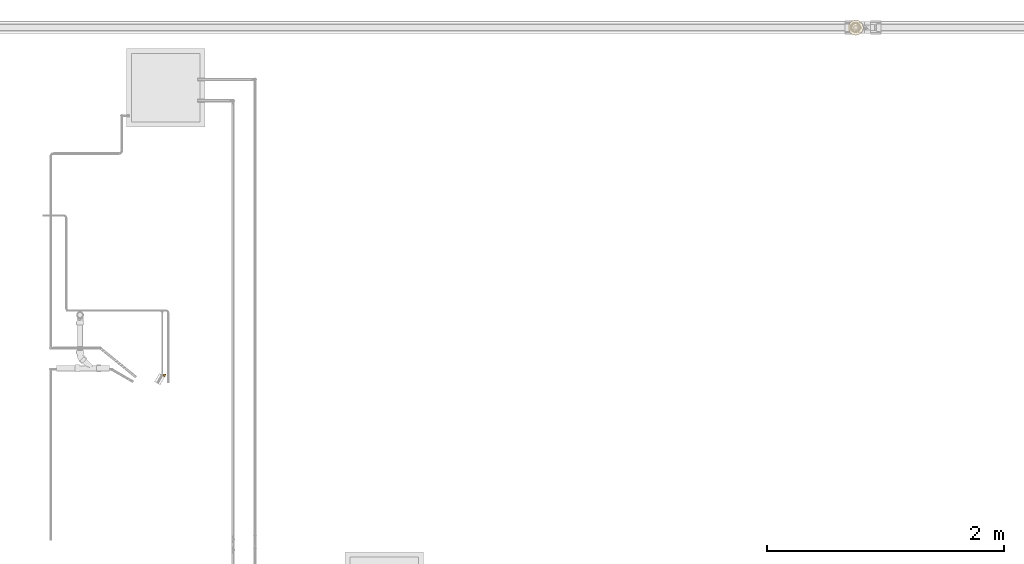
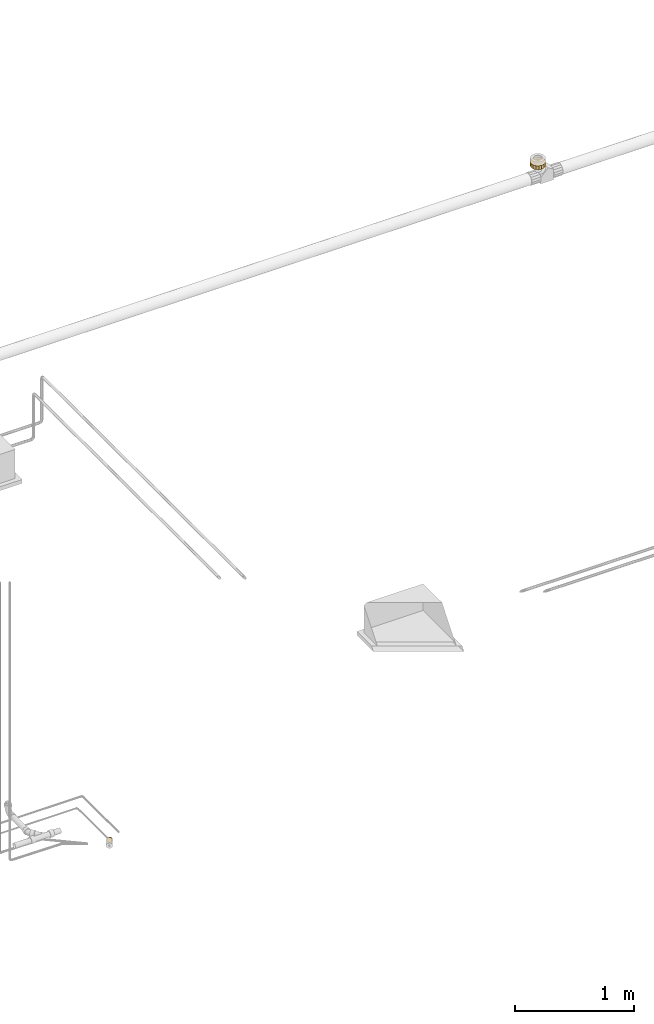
# One storey, part 3 of 35: 2 coverings.
"""IFC2X3 building model written with IfcOpenShell, lengths in millimetres."""

from ifc_helpers import new_model, entity, si_unit, converted_unit, derived_unit, direction, frame, origin_with_axes, place, context, subcontext, project, spatial, open_shell, surface_model, source, transform, mapped, element, save


model = new_model("IFC2X3")

# Units and contexts
model_context = context("Model", 3, precision=0.01, world=frame((0.0, 4.29681676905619e-09, 0.0)), true_north=direction((4.01073788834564e-13, 1.0)))
plan_context = context("Plan", 3, precision=0.01, world=frame((0.0, 4.29681676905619e-09, 0.0)), true_north=direction((4.01073788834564e-13, 1.0)))
body_context = subcontext(model_context, "Body", "Model", "MODEL_VIEW")
ifc_project = project(units=[converted_unit("PLANEANGLEUNIT", "DEGREE", entity("IfcPositiveLengthMeasure", 0.0174532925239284), si_unit("PLANEANGLEUNIT", "RADIAN"), dimensions=[0, 0, 0, 0, 0, 0, 0]), si_unit("AREAUNIT", "SQUARE_METRE"), si_unit("LENGTHUNIT", "METRE", prefix="MILLI"), si_unit("MASSUNIT", "GRAM", prefix="KILO"), si_unit("POWERUNIT", "WATT"), si_unit("PRESSUREUNIT", "PASCAL"), si_unit("FORCEUNIT", "NEWTON", prefix="KILO"), si_unit("ELECTRICVOLTAGEUNIT", "VOLT"), si_unit("ELECTRICCURRENTUNIT", "AMPERE"), si_unit("THERMODYNAMICTEMPERATUREUNIT", "DEGREE_CELSIUS"), si_unit("TIMEUNIT", "SECOND"), si_unit("VOLUMEUNIT", "CUBIC_METRE"), derived_unit("LINEARVELOCITYUNIT", [(si_unit("LENGTHUNIT", "METRE"), 1), (si_unit("TIMEUNIT", "SECOND"), -1)]), derived_unit("VOLUMETRICFLOWRATEUNIT", [(si_unit("VOLUMEUNIT", "CUBIC_METRE"), 1), (si_unit("TIMEUNIT", "SECOND"), -1)]), derived_unit("THERMALTRANSMITTANCEUNIT", [(si_unit("POWERUNIT", "WATT"), 1), (si_unit("THERMODYNAMICTEMPERATUREUNIT", "KELVIN"), -1), (si_unit("AREAUNIT", "SQUARE_METRE"), -1)]), derived_unit("SOUNDPRESSUREUNIT", [(si_unit("PRESSUREUNIT", "PASCAL"), 1)])], contexts=[model_context, plan_context])

# Site, building, storey
site_placement = place(None, frame((0.0, -4.29681676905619e-09, 0.0), z_axis=(0.0, 0.0, 1.0), x_axis=(1.0, 0.0, 0.0)))
site = spatial("IfcSite", under=ifc_project, at=site_placement, Name="ENGM", CompositionType="ELEMENT")
building_placement = place(site_placement, frame((0.0, 4.29681676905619e-09, 0.0), z_axis=(0.0, 0.0, 1.0), x_axis=(1.0, 0.0, 0.0)))
building = spatial("IfcBuilding", under=site, at=building_placement, Name="TH", CompositionType="ELEMENT")
storey_placement = place(building_placement, frame((0.0, 0.0, 210200.0), z_axis=(0.0, 0.0, 1.0), x_axis=(1.0, 0.0, 0.0)))
storey = spatial("IfcBuildingStorey", under=building, at=storey_placement, Name="Nivå F - 0,7 m", CompositionType="ELEMENT", Elevation=210200.0)

# Coverings
shared_shape_1 = source(origin_with_axes(), body_context, "Body", "SurfaceModel", [
    surface_model("IfcShellBasedSurfaceModel", [(40.0, 0.0, 64.5), (40.0, -24.68308, 59.59023), (40.0, -45.60839, 45.60839), (40.0, 24.68308, -59.59023), (40.0, 45.60839, -45.60839), (40.0, 59.59023, -24.68308), (0.0, 45.60839, 45.60839), (0.0, 59.59023, 24.68308), (0.0, 24.68308, 59.59023), (0.0, -45.60839, 45.60839), (0.0, -24.68308, 59.59023), (0.0, -59.59023, 24.68308), (0.0, -45.60839, -45.60839), (0.0, -59.59023, -24.68308), (0.0, -24.68308, -59.59023), (0.0, 24.68308, -59.59023), (0.0, 0.0, -64.5), (40.0, -59.59023, -24.68308), (0.0, -62.04511, -12.34154), (40.0, -62.58774, -9.61356), (0.0, -64.5, 0.0), (40.0, -45.60839, -45.60839), (0.0, -52.59931, -35.14573), (40.0, -64.5, 0.0), (40.0, -52.59931, -35.14573), (40.0, -35.14573, -52.59931), (0.0, -12.34154, -62.04511), (40.0, 0.0, -64.5), (40.0, -12.34154, -62.04511), (0.0, -35.14573, -52.59931), (40.0, -24.68308, -59.59023), (0.0, 12.34154, -62.04511), (40.0, 9.61356, -62.58774), (0.0, 35.14573, -52.59931), (0.0, 45.60839, -45.60839), (40.0, 35.14573, -52.59931), (40.0, 52.59931, -35.14573), (0.0, 62.04511, -12.34154), (40.0, 64.5, 0.0), (40.0, 62.04511, -12.34154), (0.0, 64.5, 0.0), (0.0, 59.59023, -24.68308), (0.0, 52.59931, -35.14573), (40.0, 59.59023, 24.68308), (0.0, 62.04511, 12.34154), (40.0, 62.58774, 9.61356), (40.0, 45.60839, 45.60839), (0.0, 52.59931, 35.14573), (40.0, 52.59931, 35.14573), (40.0, 35.14573, 52.59931), (0.0, 12.34154, 62.04511), (40.0, 12.34154, 62.04511), (0.0, 0.0, 64.5), (0.0, 35.14573, 52.59931), (40.0, 24.68308, 59.59023), (0.0, -12.34154, 62.04511), (40.0, -9.61356, 62.58774), (0.0, -35.14573, 52.59931), (40.0, -35.14573, 52.59931), (40.0, -52.59931, 35.14573), (0.0, -62.04511, 12.34154), (40.0, -62.04511, 12.34154), (0.0, -52.59931, 35.14573), (40.0, -59.59023, 24.68308)], [open_shell([[[0, 1, 2]], [[3, 4, 5]], [[6, 7, 8]], [[9, 10, 11]], [[12, 13, 14]], [[15, 16, 14]], [[17, 18, 13]], [[19, 20, 18]], [[21, 22, 12]], [[17, 19, 18]], [[20, 19, 23]], [[24, 13, 22]], [[12, 25, 21]], [[26, 27, 28]], [[27, 26, 16]], [[28, 14, 26]], [[25, 12, 29]], [[24, 17, 13]], [[29, 14, 30]], [[29, 30, 25]], [[28, 30, 14]], [[22, 21, 24]], [[3, 31, 15]], [[32, 16, 31]], [[4, 33, 34]], [[3, 32, 31]], [[16, 32, 27]], [[35, 15, 33]], [[34, 36, 4]], [[37, 38, 39]], [[38, 37, 40]], [[39, 41, 37]], [[36, 34, 42]], [[35, 3, 15]], [[42, 41, 5]], [[42, 5, 36]], [[39, 5, 41]], [[33, 4, 35]], [[43, 44, 7]], [[45, 40, 44]], [[46, 47, 6]], [[43, 45, 44]], [[40, 45, 38]], [[48, 7, 47]], [[6, 49, 46]], [[50, 0, 51]], [[0, 50, 52]], [[51, 8, 50]], [[49, 6, 53]], [[48, 43, 7]], [[53, 8, 54]], [[53, 54, 49]], [[51, 54, 8]], [[47, 46, 48]], [[1, 55, 10]], [[56, 52, 55]], [[2, 57, 9]], [[1, 56, 55]], [[52, 56, 0]], [[58, 10, 57]], [[9, 59, 2]], [[60, 23, 61]], [[23, 60, 20]], [[61, 11, 60]], [[59, 9, 62]], [[58, 1, 10]], [[62, 11, 63]], [[62, 63, 59]], [[61, 63, 11]], [[57, 2, 58]], [[54, 0, 46]], [[21, 23, 17]], [[13, 20, 14]], [[63, 23, 2]], [[38, 43, 2]], [[46, 0, 2]], [[2, 43, 46]], [[2, 23, 38]], [[23, 21, 38]], [[21, 30, 38]], [[27, 3, 30]], [[5, 38, 3]], [[38, 30, 3]], [[52, 8, 7]], [[14, 10, 52]], [[14, 11, 10]], [[11, 14, 20]], [[14, 52, 7]], [[40, 41, 34]], [[15, 7, 34]], [[15, 14, 7]], [[40, 34, 7]]])]),
])
covering_1_placement = place(storey_placement, frame((905283.35126, 486361.38955, 3192.83411), z_axis=(0.0, 0.99999988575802, 0.000477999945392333), x_axis=(0.0, -0.000477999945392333, 0.99999988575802)))
element("IfcCovering", 1, at=covering_1_placement, inside=storey, Name="BI20T - Cellegummi 13 mm kalde rør", PredefinedType="INSULATION", context=body_context, shape_type="MappedRepresentation", body=[
    mapped(shared_shape_1, transform((0.0, 0.0, 0.0), scale=1.0)),
])
shared_shape_2 = source(origin_with_axes(), body_context, "Body", "SurfaceModel", [
    surface_model("IfcShellBasedSurfaceModel", [(-4.01924, 14.76876, -23.19771), (-4.01924, 10.14805, -25.55909), (-4.01924, 5.16599, -27.01042), (-4.01924, 0.0, -27.5), (-4.01924, -7.11752, -26.56296), (-4.01924, 14.76876, 23.19771), (-4.01924, 10.14805, 25.55909), (-4.01924, 0.0, 27.5), (-4.01924, 5.16599, 27.01042), (-4.01924, -13.75, 23.8157), (-4.01924, -7.11752, 26.56296), (-4.01924, -13.75, -23.8157), (-4.01924, -26.56296, -7.11752), (-4.01924, -19.44544, -19.44544), (-4.01924, -23.8157, -13.75), (-4.01924, -19.44544, 19.44544), (-4.01924, -26.56296, 7.11752), (-4.01924, -23.8157, 13.75), (-4.01924, -27.5, 0.0), (-1.59326, 10.79808, -25.55909), (-3.91911, 14.82657, -23.19771), (-3.90362, 14.79975, 23.19771), (7.03952, -4.15434, 26.56296), (0.89777, 6.4835, -27.01042), (3.48076, 2.00962, -27.5), (3.48076, 2.00962, 27.5), (-1.59326, 10.79808, 25.55909), (0.89777, 6.4835, 27.01042), (10.35576, -9.89823, 23.8157), (16.76224, -20.99458, -7.11752), (10.35576, -9.89823, -23.8157), (7.03952, -4.15434, -26.56296), (15.38861, -18.61538, -13.75), (13.20348, -14.83062, -19.44544), (16.76224, -20.99458, 7.11752), (13.20348, -14.83062, 19.44544), (15.38861, -18.61538, 13.75), (17.23076, -21.80608, 0.0), (-0.13695, 0.51111, -27.5), (-3.90362, 14.79975, -23.19771), (9.47209, -24.74417, -5.36498), (4.19592, -15.65939, -21.81722), (1.77661, -9.85703, -25.40669), (4.34108, -20.85544, -16.74094), (6.43878, -24.02986, -10.52379), (-0.15836, -4.873, -26.99527), (6.98057, -26.05185, 0.0), (3.18838, -15.91177, 21.81722), (5.50976, -20.5627, 16.74094), (3.98975, -26.22449, 5.24457), (5.15616, -24.35114, 10.52379), (2.52687, -4.28422, 26.9716), (2.58681, -9.65409, 25.40669), (-0.13695, 0.51111, 27.5), (-3.10148, 13.26664, 24.09103)], [open_shell([[[0, 1, 2]], [[2, 3, 0]], [[4, 5, 0]], [[6, 5, 7]], [[6, 7, 8]], [[7, 5, 9]], [[7, 9, 10]], [[4, 0, 3]], [[4, 11, 12]], [[13, 14, 12]], [[13, 12, 11]], [[12, 9, 5]], [[15, 9, 16]], [[15, 16, 17]], [[16, 9, 18]], [[9, 12, 18]], [[12, 5, 4]], [[19, 20, 21]], [[22, 23, 19]], [[23, 22, 24]], [[25, 21, 26]], [[27, 25, 26]], [[25, 19, 21]], [[25, 22, 19]], [[22, 28, 24]], [[29, 30, 31]], [[29, 32, 33]], [[30, 29, 33]], [[24, 28, 29]], [[34, 28, 35]], [[36, 34, 35]], [[37, 28, 34]], [[37, 29, 28]], [[31, 24, 29]], [[38, 2, 23]], [[38, 3, 2]], [[2, 1, 19]], [[19, 23, 2]], [[24, 38, 23]], [[1, 39, 19]], [[37, 40, 29]], [[11, 41, 13]], [[42, 11, 4]], [[14, 43, 44]], [[42, 41, 11]], [[45, 42, 4]], [[18, 12, 46]], [[13, 41, 43]], [[40, 12, 44]], [[13, 43, 14]], [[32, 29, 44]], [[12, 40, 46]], [[3, 38, 45]], [[43, 32, 44]], [[30, 41, 42]], [[3, 45, 4]], [[24, 31, 38]], [[31, 45, 38]], [[30, 42, 31]], [[33, 32, 43]], [[33, 41, 30]], [[40, 37, 46]], [[33, 43, 41]], [[40, 44, 29]], [[14, 44, 12]], [[31, 42, 45]], [[35, 47, 48]], [[18, 46, 49]], [[15, 17, 48]], [[17, 50, 48]], [[18, 49, 16]], [[51, 52, 22]], [[9, 15, 47]], [[34, 49, 46]], [[52, 9, 47]], [[35, 48, 36]], [[36, 50, 34]], [[7, 10, 53]], [[49, 34, 50]], [[50, 17, 16]], [[35, 28, 47]], [[15, 48, 47]], [[48, 50, 36]], [[28, 52, 47]], [[28, 22, 52]], [[51, 10, 52]], [[9, 52, 10]], [[25, 53, 51]], [[10, 51, 53]], [[49, 50, 16]], [[25, 51, 22]], [[34, 46, 37]], [[6, 8, 27]], [[54, 5, 6]], [[53, 8, 7]], [[53, 25, 27]], [[26, 6, 27]], [[27, 8, 53]], [[6, 26, 54]]])]),
])
covering_2_placement = place(storey_placement, frame((899440.50163, 483437.73199, 97.1000000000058), z_axis=(-0.000502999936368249, 3.25260651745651e-19, 0.999999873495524), x_axis=(0.500000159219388, 0.866025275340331, 0.000251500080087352)))
element("IfcCovering", 2, at=covering_2_placement, inside=storey, Name="BI16T - Rørskål m/Al.folie - VV 40mm", PredefinedType="INSULATION", context=body_context, shape_type="MappedRepresentation", body=[
    mapped(shared_shape_2, transform((0.0, 0.0, 0.0), scale=1.0)),
])

save(model, "model.ifc")
